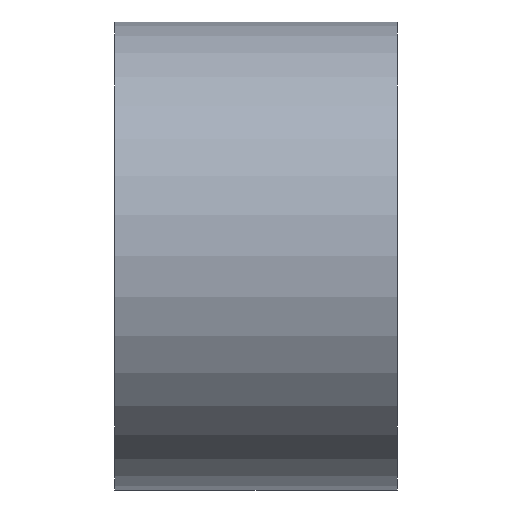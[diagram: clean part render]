
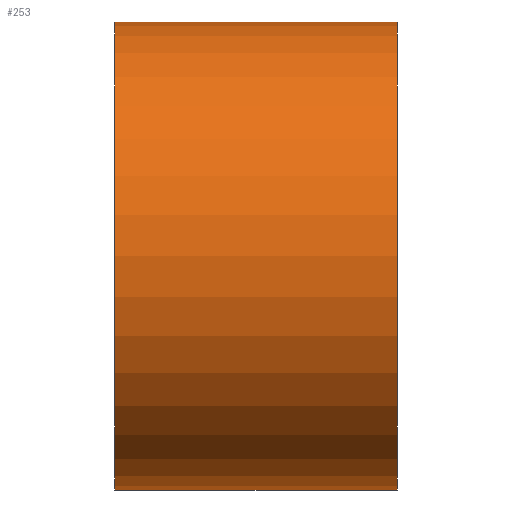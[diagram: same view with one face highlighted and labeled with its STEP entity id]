
A CAD part, left-side view. The second image highlights one B-rep face of the part: STEP entity #253.
In plain terms, the highlighted cylindrical face has radius 2.9 mm (diameter 5.8 mm), a partial arc.
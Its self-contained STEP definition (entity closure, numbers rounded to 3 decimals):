
#22 = VERTEX_POINT('',#23);
#23 = CARTESIAN_POINT('',(0.,0.,2.9));
#24 = VERTEX_POINT('',#25);
#25 = CARTESIAN_POINT('',(0.,0.,-2.9));
#33 = CYLINDRICAL_SURFACE('',#34,2.9);
#34 = AXIS2_PLACEMENT_3D('',#35,#36,#37);
#35 = CARTESIAN_POINT('',(0.,0.,0.));
#36 = DIRECTION('',(0.,1.,0.));
#37 = DIRECTION('',(0.,-0.,1.));
#45 = PLANE('',#46);
#46 = AXIS2_PLACEMENT_3D('',#47,#48,#49);
#47 = CARTESIAN_POINT('',(0.,0.,0.));
#48 = DIRECTION('',(0.,1.,0.));
#49 = DIRECTION('',(0.,-0.,1.));
#57 = EDGE_CURVE('',#24,#58,#60,.T.);
#58 = VERTEX_POINT('',#59);
#59 = CARTESIAN_POINT('',(0.,3.5,-2.9));
#60 = SURFACE_CURVE('',#61,(#65,#72),.PCURVE_S1.);
#61 = LINE('',#62,#63);
#62 = CARTESIAN_POINT('',(0.,0.,-2.9));
#63 = VECTOR('',#64,1.);
#64 = DIRECTION('',(0.,1.,0.));
#65 = PCURVE('',#33,#66);
#66 = DEFINITIONAL_REPRESENTATION('',(#67),#71);
#67 = LINE('',#68,#69);
#68 = CARTESIAN_POINT('',(3.142,0.));
#69 = VECTOR('',#70,1.);
#70 = DIRECTION('',(0.,1.));
#71 = ( GEOMETRIC_REPRESENTATION_CONTEXT(2) 
PARAMETRIC_REPRESENTATION_CONTEXT() REPRESENTATION_CONTEXT('2D SPACE',''
  ) );
#72 = PCURVE('',#73,#78);
#73 = CYLINDRICAL_SURFACE('',#74,2.9);
#74 = AXIS2_PLACEMENT_3D('',#75,#76,#77);
#75 = CARTESIAN_POINT('',(0.,0.,0.));
#76 = DIRECTION('',(0.,1.,0.));
#77 = DIRECTION('',(0.,-0.,1.));
#78 = DEFINITIONAL_REPRESENTATION('',(#79),#83);
#79 = LINE('',#80,#81);
#80 = CARTESIAN_POINT('',(3.142,0.));
#81 = VECTOR('',#82,1.);
#82 = DIRECTION('',(0.,1.));
#83 = ( GEOMETRIC_REPRESENTATION_CONTEXT(2) 
PARAMETRIC_REPRESENTATION_CONTEXT() REPRESENTATION_CONTEXT('2D SPACE',''
  ) );
#86 = VERTEX_POINT('',#87);
#87 = CARTESIAN_POINT('',(0.,3.5,2.9));
#102 = PLANE('',#103);
#103 = AXIS2_PLACEMENT_3D('',#104,#105,#106);
#104 = CARTESIAN_POINT('',(0.,3.5,0.));
#105 = DIRECTION('',(0.,1.,0.));
#106 = DIRECTION('',(0.,-0.,1.));
#118 = EDGE_CURVE('',#22,#86,#119,.T.);
#119 = SURFACE_CURVE('',#120,(#124,#131),.PCURVE_S1.);
#120 = LINE('',#121,#122);
#121 = CARTESIAN_POINT('',(0.,0.,2.9));
#122 = VECTOR('',#123,1.);
#123 = DIRECTION('',(0.,1.,0.));
#124 = PCURVE('',#33,#125);
#125 = DEFINITIONAL_REPRESENTATION('',(#126),#130);
#126 = LINE('',#127,#128);
#127 = CARTESIAN_POINT('',(0.,0.));
#128 = VECTOR('',#129,1.);
#129 = DIRECTION('',(0.,1.));
#130 = ( GEOMETRIC_REPRESENTATION_CONTEXT(2) 
PARAMETRIC_REPRESENTATION_CONTEXT() REPRESENTATION_CONTEXT('2D SPACE',''
  ) );
#131 = PCURVE('',#73,#132);
#132 = DEFINITIONAL_REPRESENTATION('',(#133),#137);
#133 = LINE('',#134,#135);
#134 = CARTESIAN_POINT('',(6.283,0.));
#135 = VECTOR('',#136,1.);
#136 = DIRECTION('',(0.,1.));
#137 = ( GEOMETRIC_REPRESENTATION_CONTEXT(2) 
PARAMETRIC_REPRESENTATION_CONTEXT() REPRESENTATION_CONTEXT('2D SPACE',''
  ) );
#253 = ADVANCED_FACE('',(#254),#73,.T.);
#254 = FACE_BOUND('',#255,.T.);
#255 = EDGE_LOOP('',(#256,#257,#279,#280));
#256 = ORIENTED_EDGE('',*,*,#57,.F.);
#257 = ORIENTED_EDGE('',*,*,#258,.T.);
#258 = EDGE_CURVE('',#24,#22,#259,.T.);
#259 = SURFACE_CURVE('',#260,(#265,#272),.PCURVE_S1.);
#260 = CIRCLE('',#261,2.9);
#261 = AXIS2_PLACEMENT_3D('',#262,#263,#264);
#262 = CARTESIAN_POINT('',(0.,0.,0.));
#263 = DIRECTION('',(0.,1.,0.));
#264 = DIRECTION('',(0.,-0.,1.));
#265 = PCURVE('',#73,#266);
#266 = DEFINITIONAL_REPRESENTATION('',(#267),#271);
#267 = LINE('',#268,#269);
#268 = CARTESIAN_POINT('',(0.,0.));
#269 = VECTOR('',#270,1.);
#270 = DIRECTION('',(1.,0.));
#271 = ( GEOMETRIC_REPRESENTATION_CONTEXT(2) 
PARAMETRIC_REPRESENTATION_CONTEXT() REPRESENTATION_CONTEXT('2D SPACE',''
  ) );
#272 = PCURVE('',#45,#273);
#273 = DEFINITIONAL_REPRESENTATION('',(#274),#278);
#274 = CIRCLE('',#275,2.9);
#275 = AXIS2_PLACEMENT_2D('',#276,#277);
#276 = CARTESIAN_POINT('',(0.,0.));
#277 = DIRECTION('',(1.,0.));
#278 = ( GEOMETRIC_REPRESENTATION_CONTEXT(2) 
PARAMETRIC_REPRESENTATION_CONTEXT() REPRESENTATION_CONTEXT('2D SPACE',''
  ) );
#279 = ORIENTED_EDGE('',*,*,#118,.T.);
#280 = ORIENTED_EDGE('',*,*,#281,.T.);
#281 = EDGE_CURVE('',#86,#58,#282,.T.);
#282 = SURFACE_CURVE('',#283,(#288,#295),.PCURVE_S1.);
#283 = CIRCLE('',#284,2.9);
#284 = AXIS2_PLACEMENT_3D('',#285,#286,#287);
#285 = CARTESIAN_POINT('',(0.,3.5,0.));
#286 = DIRECTION('',(0.,-1.,0.));
#287 = DIRECTION('',(0.,0.,1.));
#288 = PCURVE('',#73,#289);
#289 = DEFINITIONAL_REPRESENTATION('',(#290),#294);
#290 = LINE('',#291,#292);
#291 = CARTESIAN_POINT('',(6.283,3.5));
#292 = VECTOR('',#293,1.);
#293 = DIRECTION('',(-1.,0.));
#294 = ( GEOMETRIC_REPRESENTATION_CONTEXT(2) 
PARAMETRIC_REPRESENTATION_CONTEXT() REPRESENTATION_CONTEXT('2D SPACE',''
  ) );
#295 = PCURVE('',#102,#296);
#296 = DEFINITIONAL_REPRESENTATION('',(#297),#305);
#297 = ( BOUNDED_CURVE() B_SPLINE_CURVE(2,(#298,#299,#300,#301,#302,#303
,#304),.UNSPECIFIED.,.T.,.F.) B_SPLINE_CURVE_WITH_KNOTS((1,2,2,2,2,1),(
    -2.094,0.,2.094,4.189,6.283,
8.378),.UNSPECIFIED.) CURVE() GEOMETRIC_REPRESENTATION_ITEM() 
RATIONAL_B_SPLINE_CURVE((1.,0.5,1.,0.5,1.,0.5,1.)) REPRESENTATION_ITEM(
  '') );
#298 = CARTESIAN_POINT('',(2.9,0.));
#299 = CARTESIAN_POINT('',(2.9,-5.023));
#300 = CARTESIAN_POINT('',(-1.45,-2.511));
#301 = CARTESIAN_POINT('',(-5.8,0.));
#302 = CARTESIAN_POINT('',(-1.45,2.511));
#303 = CARTESIAN_POINT('',(2.9,5.023));
#304 = CARTESIAN_POINT('',(2.9,0.));
#305 = ( GEOMETRIC_REPRESENTATION_CONTEXT(2) 
PARAMETRIC_REPRESENTATION_CONTEXT() REPRESENTATION_CONTEXT('2D SPACE',''
  ) );
